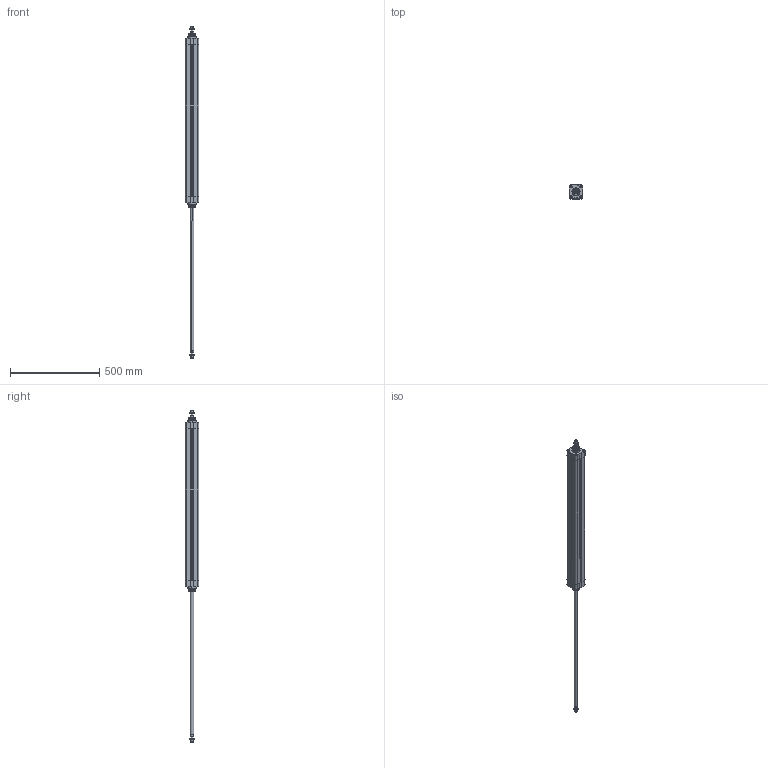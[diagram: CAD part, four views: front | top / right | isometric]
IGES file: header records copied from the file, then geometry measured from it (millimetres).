
Global section: file name: No Iges File Name specified; native system: Autodesk Inventor 2010; preprocessor: AutoDesk Inventor Iges Exporter R2010; author: rivolro1; date: 20090707.105832; units: millimetre
Bounding box: 77.5 x 77.5 x 1859 mm (x, y, z)
Volume: 3385210.9 mm3; surface area: 680343.9 mm2
Topology: 6 solids, 6 shells, 343 faces, 810 edges, 508 vertices
Faces by surface type: plane 137, bspline 86, cylinder 58, cone 38, revolution 20, torus 4
